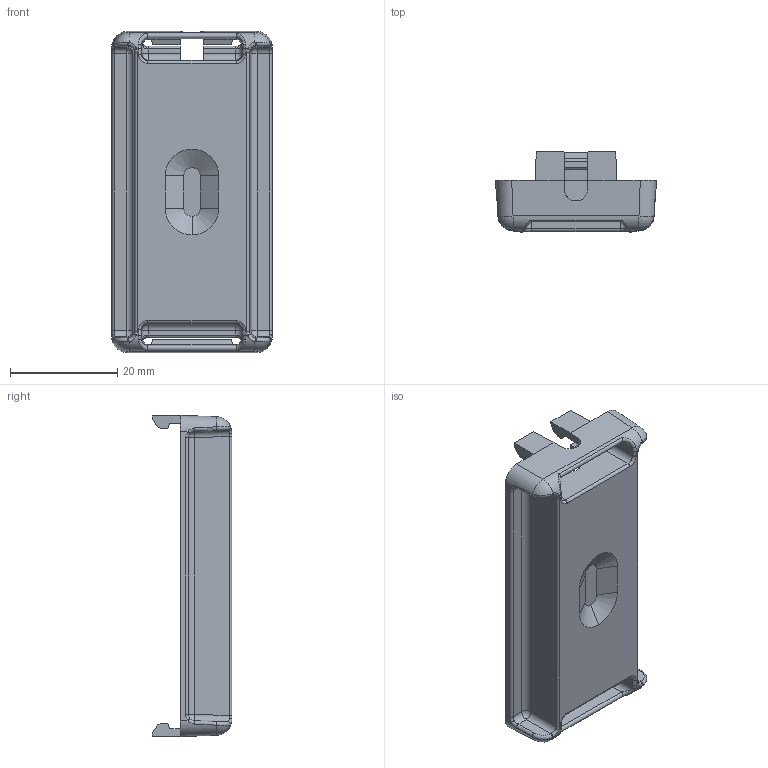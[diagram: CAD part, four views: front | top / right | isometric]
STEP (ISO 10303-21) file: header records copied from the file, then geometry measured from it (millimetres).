
FILE_DESCRIPTION (( 'STEP AP214' ), '1' );
FILE_NAME ('P-00123 - Depth Sensor Cover v2.2.5.STEP', '2026-06-12T21:54:02', ( '' ), ( '' ), 'SwSTEP 2.0', 'SolidWorks 2023', '' );
FILE_SCHEMA (( 'AUTOMOTIVE_DESIGN' ));
Length unit declared in the file: inch
Products named in the file (1): P-00123 - Depth Sensor Cover v2.2.5
Bounding box: 30 x 14.85 x 60 mm (x, y, z)
Volume: 5163.2 mm3; surface area: 7153.6 mm2
Topology: 1 solids, 1 shells, 219 faces, 573 edges, 346 vertices
Faces by surface type: plane 95, cylinder 50, bspline 48, sphere 12, cone 10, torus 4
Entity records: 8592 total; most frequent: CARTESIAN_POINT 3677, ORIENTED_EDGE 1130, DIRECTION 899, EDGE_CURVE 565, VERTEX_POINT 346, LINE 315, VECTOR 315, AXIS2_PLACEMENT_3D 292
